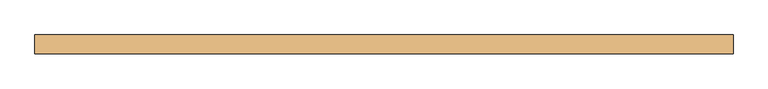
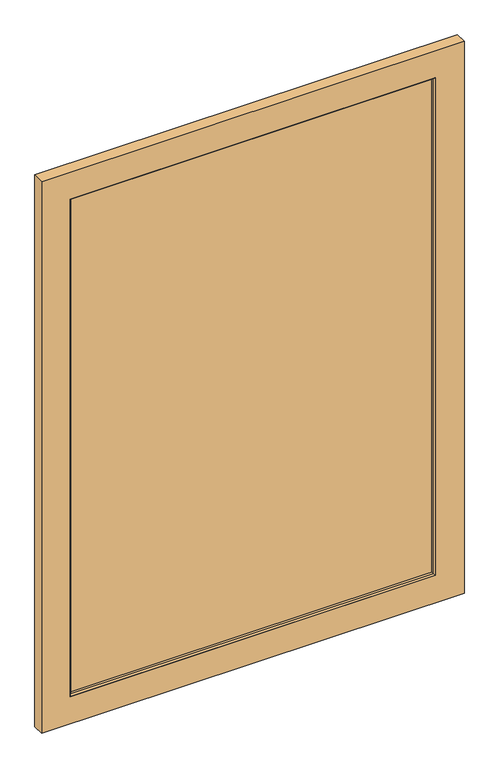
"""IFC4 building model written with IfcOpenShell, lengths in millimetres: door geometry, Planitar - Swap_Full Glass_Panel : Planitar - Swap_Full Glass_Panel."""

from ifc_helpers import new_model, si_unit, frame, origin, place, context, project, spatial, polyline, outline, extrude, faceted_brep, source, transform, mapped, element, save


def door_f6d2234c(model_context):
    return source(origin(), model_context, "Body", "SolidModel", [
        extrude(outline(polyline([(2590.8, 939.8), (2590.8, -939.8), (0.0, -939.8), (0.0, 939.8), (2590.8, 939.8)]), holes=[polyline([(127.0, 812.8), (127.0, -812.8), (2463.8, -812.8), (2463.8, 812.8), (127.0, 812.8)])]), frame((0.0, -25.4, 0.0), z_axis=(0.0, 1.0, 0.0), x_axis=(0.0, 0.0, 1.0)), (0.0, 0.0, 1.0), 50.8),
        extrude(outline(polyline([(806.45, 6.35), (806.45, -6.35), (-806.45, -6.35), (-806.45, 6.35), (806.45, 6.35)])), frame((0.0, 0.0, 133.35), z_axis=(0.0, 0.0, 1.0), x_axis=(1.0, 0.0, 0.0)), (0.0, 0.0, 1.0), 2324.1),
        faceted_brep([(806.45, -19.05, 133.35), (-806.45, -19.05, 133.35), (-812.8, -25.4, 127.0), (812.8, -25.4, 127.0), (-806.45, -19.05, 2457.45), (-812.8, -25.4, 2463.8), (-812.8, 25.4, 2463.8), (-812.8, 25.4, 127.0), (-806.45, 19.05, 133.35), (-806.45, 19.05, 2457.45), (806.45, 19.05, 133.35), (812.8, 25.4, 127.0), (806.45, -19.05, 2457.45), (812.8, -25.4, 2463.8), (812.8, 25.4, 2463.8), (806.45, 19.05, 2457.45)], [[[0, 1, 2, 3]], [[1, 4, 5, 2]], [[2, 5, 6, 7]], [[1, 8, 9, 4]], [[7, 6, 9, 8]], [[10, 8, 1, 0]], [[11, 7, 8, 10]], [[3, 2, 7, 11]], [[12, 0, 3, 13]], [[13, 3, 11, 14]], [[15, 10, 0, 12]], [[14, 11, 10, 15]], [[4, 12, 13, 5]], [[9, 15, 12, 4]], [[6, 14, 15, 9]], [[5, 13, 14, 6]]]),
    ])


if __name__ == "__main__":
    model = new_model("IFC4")
    model_context = context("Model", 3, world=origin())
    ifc_project = project(units=[si_unit("LENGTHUNIT", "METRE", prefix="MILLI")], contexts=[model_context])
    site = spatial("IfcSite", under=ifc_project)
    building = spatial("IfcBuilding", under=site)
    placement = place(None, origin())
    door_shape = door_f6d2234c(model_context)
    element("IfcDoor", 1, ObjectType="Planitar - Swap_Full Glass_Panel : Planitar - Swap_Full Glass_Panel", at=placement, inside=building, context=model_context, shape_type="MappedRepresentation", body=[
        mapped(door_shape, transform((0.0, 0.0, 0.0), x_axis=(1.0, 0.0, 0.0), y_axis=(0.0, 1.0, 0.0), z_axis=(0.0, 0.0, 1.0))),
    ])
    save(model, "model.ifc")
